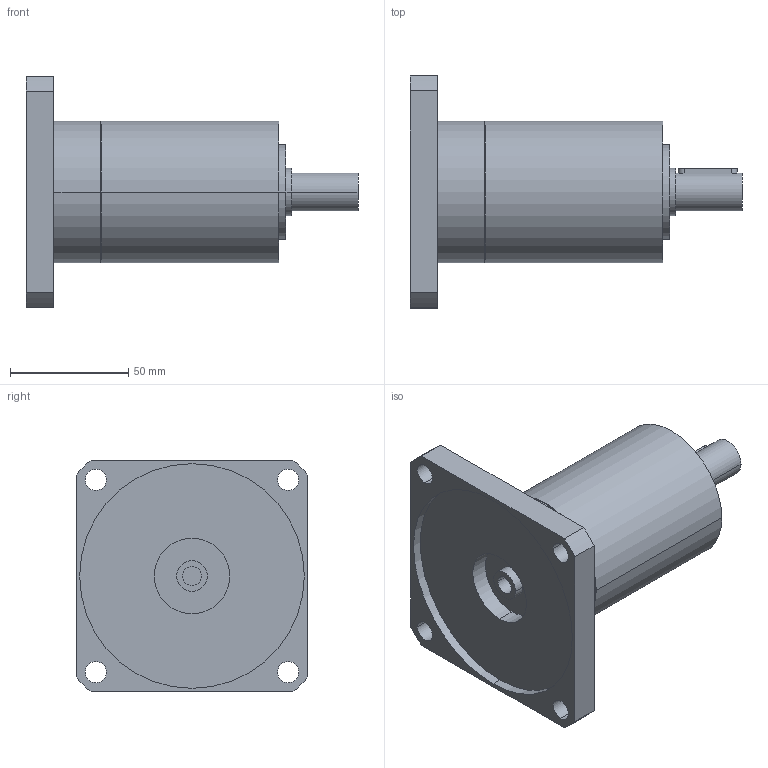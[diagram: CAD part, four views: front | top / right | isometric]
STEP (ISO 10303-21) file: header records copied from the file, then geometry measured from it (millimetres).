
FILE_DESCRIPTION(('CoCreate Modeling STEP Export'),'2;1');
FILE_NAME('GPR75_ig-9-12-16-20-24-30-36_16_B14_8_P08.stp','2014-08-25T16:05:56',(''),(''),'CoCreate Modeling STEP processor for AP214 (Solid Model)','CoCreate Modeling 16.00C 25-Feb-2009 (C) Parametric Technology GmbH','');
FILE_SCHEMA(('AUTOMOTIVE_DESIGN { 1 0 10303 214 1 1 1 1 }'));
Length unit declared in the file: millimetre
Products named in the file (2): GPR75_ig-9-12-16-20-24-30-36_16_B14_8_P08
Assembly tree (1 placements, depth 2):
  GPR75_ig-9-12-16-20-24-30-36_16_B14_8_P08
    GPR75_ig-9-12-16-20-24-30-36_16_B14_8_P08
Bounding box: 140.4 x 98 x 98 mm (x, y, z)
Volume: 351071.6 mm3; surface area: 47822.1 mm2
Topology: 1 solids, 1 shells, 70 faces, 189 edges, 133 vertices
Faces by surface type: cylinder 42, plane 22, cone 6
Entity records: 1944 total; most frequent: ORIENTED_EDGE 374, CARTESIAN_POINT 361, DIRECTION 262, EDGE_CURVE 187, VERTEX_POINT 133, AXIS2_PLACEMENT_3D 98, EDGE_LOOP 92, FACE_OUTER_BOUND 70
